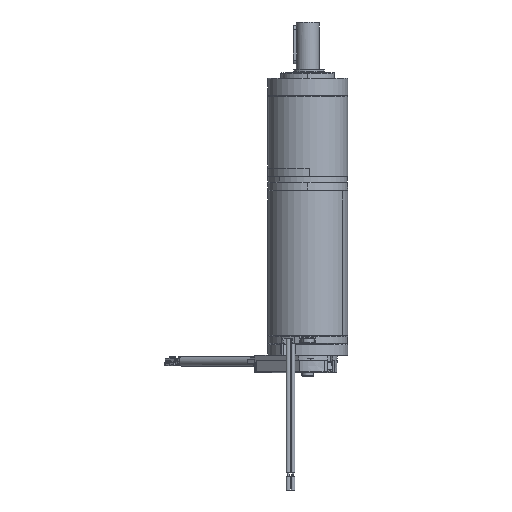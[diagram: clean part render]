
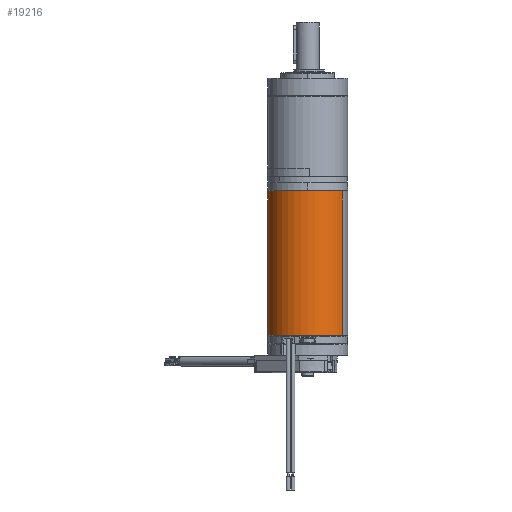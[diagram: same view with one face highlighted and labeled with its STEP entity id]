
A CAD part, left-side view. The second image highlights one B-rep face of the part: STEP entity #19216.
In plain terms, the highlighted cylindrical face has radius 21 mm (diameter 42 mm), a partial arc.
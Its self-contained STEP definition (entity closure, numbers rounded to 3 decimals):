
#376 = EDGE_CURVE ( 'NONE', #170650, #117730, #151057, .T. ) ;
#665 = CARTESIAN_POINT ( 'NONE',  ( 15.552, 9.632, -13.915 ) ) ;
#6345 = CYLINDRICAL_SURFACE ( 'NONE', #29298, 21. ) ;
#7565 = ORIENTED_EDGE ( 'NONE', *, *, #376, .F. ) ;
#8993 = ORIENTED_EDGE ( 'NONE', *, *, #130059, .T. ) ;
#18038 = ORIENTED_EDGE ( 'NONE', *, *, #146341, .T. ) ;
#19216 = ADVANCED_FACE ( 'NONE', ( #159159 ), #6345, .T. ) ;
#24292 = CARTESIAN_POINT ( 'NONE',  ( -5.29, -26.831, 7.935 ) ) ;
#28819 = VECTOR ( 'NONE', #110307, 1000. ) ;
#29298 = AXIS2_PLACEMENT_3D ( 'NONE', #62837, #161871, #35081 ) ;
#35081 = DIRECTION ( 'NONE',  ( 0.496, 0.868, 0. ) ) ;
#35290 = VERTEX_POINT ( 'NONE', #665 ) ;
#44102 = CARTESIAN_POINT ( 'NONE',  ( 5.131, -8.599, 61.785 ) ) ;
#50576 = CARTESIAN_POINT ( 'NONE',  ( -5.29, -26.831, -13.915 ) ) ;
#54353 = EDGE_CURVE ( 'NONE', #158109, #35290, #142637, .T. ) ;
#58023 = DIRECTION ( 'NONE',  ( -0.496, -0.868, 0. ) ) ;
#62837 = CARTESIAN_POINT ( 'NONE',  ( 5.131, -8.599, 7.935 ) ) ;
#63860 = CIRCLE ( 'NONE', #99340, 21. ) ;
#73639 = CARTESIAN_POINT ( 'NONE',  ( 5.131, -8.599, -13.915 ) ) ;
#86066 = EDGE_LOOP ( 'NONE', ( #7565, #18038, #155347, #8993 ) ) ;
#88433 = DIRECTION ( 'NONE',  ( 0., 0., 1. ) ) ;
#99340 = AXIS2_PLACEMENT_3D ( 'NONE', #73639, #88433, #117144 ) ;
#110307 = DIRECTION ( 'NONE',  ( 0., 0., -1. ) ) ;
#117144 = DIRECTION ( 'NONE',  ( -0.496, -0.868, 0. ) ) ;
#117202 = DIRECTION ( 'NONE',  ( 0., 0., -1. ) ) ;
#117730 = VERTEX_POINT ( 'NONE', #50576 ) ;
#120533 = CARTESIAN_POINT ( 'NONE',  ( 15.552, 9.632, 61.785 ) ) ;
#130059 = EDGE_CURVE ( 'NONE', #35290, #117730, #63860, .T. ) ;
#131882 = VECTOR ( 'NONE', #156546, 1000. ) ;
#142637 = LINE ( 'NONE', #145415, #131882 ) ;
#145415 = CARTESIAN_POINT ( 'NONE',  ( 15.552, 9.632, 7.935 ) ) ;
#146341 = EDGE_CURVE ( 'NONE', #170650, #158109, #154837, .T. ) ;
#151057 = LINE ( 'NONE', #24292, #28819 ) ;
#154837 = CIRCLE ( 'NONE', #157921, 21. ) ;
#155347 = ORIENTED_EDGE ( 'NONE', *, *, #54353, .T. ) ;
#156546 = DIRECTION ( 'NONE',  ( 0., 0., -1. ) ) ;
#157921 = AXIS2_PLACEMENT_3D ( 'NONE', #44102, #117202, #58023 ) ;
#158109 = VERTEX_POINT ( 'NONE', #120533 ) ;
#159159 = FACE_OUTER_BOUND ( 'NONE', #86066, .T. ) ;
#161871 = DIRECTION ( 'NONE',  ( 0., 0., -1. ) ) ;
#162857 = CARTESIAN_POINT ( 'NONE',  ( -5.29, -26.831, 61.785 ) ) ;
#170650 = VERTEX_POINT ( 'NONE', #162857 ) ;
